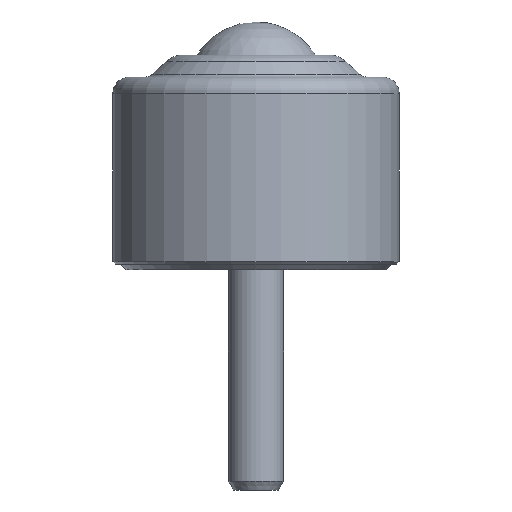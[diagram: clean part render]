
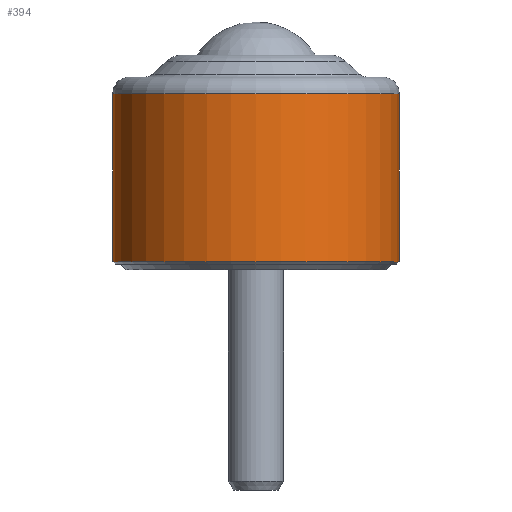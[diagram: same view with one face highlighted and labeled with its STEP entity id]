
A CAD part, front view. The second image highlights one B-rep face of the part: STEP entity #394.
In plain terms, the highlighted cylindrical face has radius 26 mm (diameter 52 mm), a full revolution.
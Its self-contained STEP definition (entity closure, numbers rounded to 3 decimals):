
#60=CYLINDRICAL_SURFACE('',#435,26.);
#77=FACE_BOUND('',#166,.T.);
#129=FACE_OUTER_BOUND('',#165,.T.);
#165=EDGE_LOOP('',(#308));
#166=EDGE_LOOP('',(#309));
#209=CIRCLE('',#434,26.);
#210=CIRCLE('',#436,26.);
#230=VERTEX_POINT('',#621);
#231=VERTEX_POINT('',#624);
#263=EDGE_CURVE('',#230,#230,#209,.T.);
#264=EDGE_CURVE('',#231,#231,#210,.T.);
#308=ORIENTED_EDGE('',*,*,#263,.F.);
#309=ORIENTED_EDGE('',*,*,#264,.T.);
#394=ADVANCED_FACE('',(#129,#77),#60,.T.);
#434=AXIS2_PLACEMENT_3D('',#622,#505,#506);
#435=AXIS2_PLACEMENT_3D('',#623,#507,#508);
#436=AXIS2_PLACEMENT_3D('',#625,#509,#510);
#505=DIRECTION('center_axis',(0.,0.,-1.));
#506=DIRECTION('ref_axis',(0.,1.,0.));
#507=DIRECTION('center_axis',(0.,0.,-1.));
#508=DIRECTION('ref_axis',(0.,1.,0.));
#509=DIRECTION('center_axis',(0.,0.,-1.));
#510=DIRECTION('ref_axis',(0.,1.,0.));
#621=CARTESIAN_POINT('',(0.,26.,1.5));
#622=CARTESIAN_POINT('Origin',(0.,0.,1.5));
#623=CARTESIAN_POINT('Origin',(0.,0.,16.75));
#624=CARTESIAN_POINT('',(0.,26.,32.));
#625=CARTESIAN_POINT('Origin',(0.,0.,32.));
